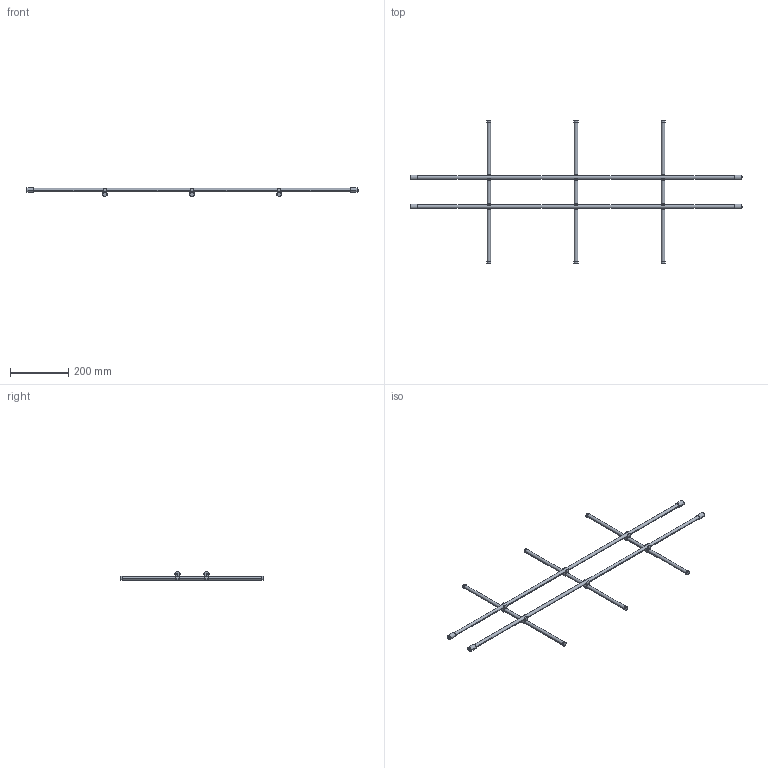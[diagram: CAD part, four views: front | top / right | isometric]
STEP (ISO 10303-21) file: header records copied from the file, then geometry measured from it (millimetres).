
FILE_DESCRIPTION (( 'STEP AP214' ), '1' );
FILE_NAME ('Magic-Classic_NL-525-KAB 1200.step', '2010-09-16T12:49:42', ( 'grass' ), ( '' ), 'SwSTEP 2.0', 'SolidWorks 2010', '' );
FILE_SCHEMA (( 'AUTOMOTIVE_DESIGN' ));
Length unit declared in the file: millimetre
Products named in the file (1): Magic-Classic_NL-525-KAB 1200
Bounding box: 1143 x 490 x 30.45 mm (x, y, z)
Volume: 448796.2 mm3; surface area: 149424.1 mm2
Topology: 1 solids, 1 shells, 190 faces, 534 edges, 356 vertices
Faces by surface type: plane 104, cylinder 86
Entity records: 6260 total; most frequent: DIRECTION 1136, CARTESIAN_POINT 1081, ORIENTED_EDGE 1068, EDGE_CURVE 534, AXIS2_PLACEMENT_3D 411, VERTEX_POINT 356, VECTOR 314, LINE 314
